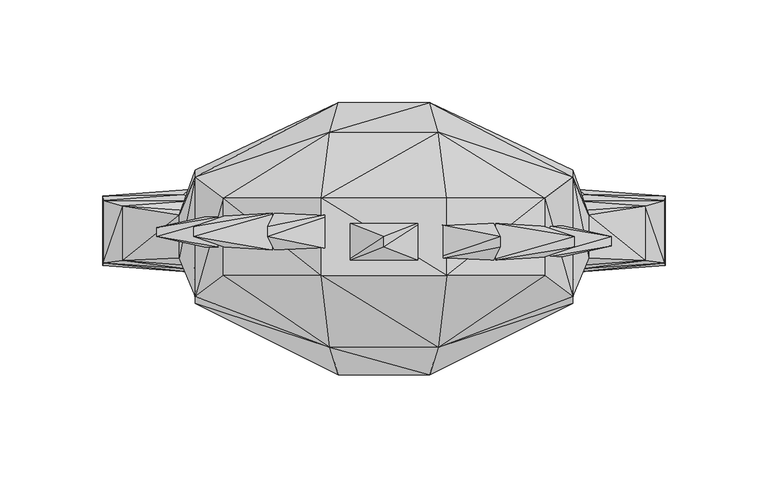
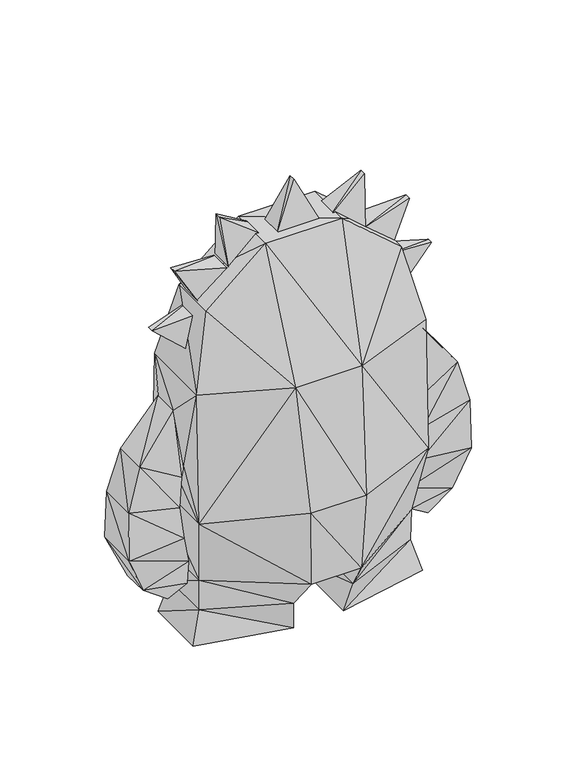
"""IFC4 building model written with IfcOpenShell, lengths in millimetres: geographic element geometry, Enscape AssetDefinition - Plushy 03 : Enscape AssetDefinition - Plushy 03."""

from ifc_helpers import new_model, si_unit, origin, place, context, project, spatial, faceted_brep, source, transform, mapped, element, save


def geographic_element_8ae85c0b(model_context):
    return source(origin(), model_context, "Body", "Brep", [
        faceted_brep([(91.9265822, 24.4659167, 0.0), (20.0573187, -39.6175124, 0.0), (20.0573187, 39.6175124, 0.0), (91.9265822, -24.4659167, 0.0), (84.704794, -20.0782437, 25.816232), (23.8822959, -46.1381339, 25.8158222), (84.7048014, 20.0782437, 25.816232), (23.8822959, 46.1381264, 25.8158147), (85.1329267, -20.741256, 51.6325012), (85.1329267, 20.741256, 51.6325012), (20.0573187, -64.2647818, 51.6315699), (20.0573187, 64.2647967, 51.6315624), (91.9265822, 32.5642116, 108.3170995), (91.9265822, -32.5642116, 108.3170995), (-22.3514959, -67.5532967, 114.4022718), (22.3514959, -67.5532967, 114.4022718), (-20.0573187, -64.2647818, 51.6315699), (-26.439596, -53.9494343, 214.153707), (26.439596, -53.9494343, 214.153707), (-91.9265822, -32.5642116, 108.3170995), (-85.1329267, -20.741256, 51.6325012), (-20.0573187, 64.2647967, 51.6315624), (-23.8822959, -46.1381339, 25.8158129), (-22.3483704, 65.4671639, 114.3259779), (-91.9265822, 32.5642116, 108.3170995), (-85.1329267, 20.741256, 51.6325012), (-23.8822959, 46.1381264, 25.8158073), (-84.7047791, -20.0782437, 25.8162282), (-20.0573187, -39.6175124, 0.0), (-20.0573187, 39.6175124, 0.0), (-84.704794, 20.0782456, 25.8162282), (-91.9265822, 24.4659167, 0.0), (-91.9265822, -24.4659167, 0.0), (-91.9265822, -29.1777272, 215.7937288), (-92.7249789, 12.4114128, 145.3188658), (-92.7249789, -12.4114081, 145.3188658), (-30.6421965, -18.8544281, 316.6989386), (-78.3054754, -18.9004317, 275.6634653), (30.6421965, -18.8544281, 316.6989386), (-30.6421928, 18.8544225, 316.6989386), (-78.3054754, 18.9004373, 275.6634653), (78.3054754, -18.9004317, 275.6634653), (91.9265822, -29.1777272, 215.7937288), (78.3054754, 18.9004373, 275.6634653), (30.6421928, 18.8544225, 316.6989386), (91.9265822, 29.1777328, 215.7937288), (99.9298692, -10.4684532, 194.6017444), (92.7249789, -12.4114081, 145.3188658), (92.7249789, 12.4114128, 145.3188658), (94.9723274, 17.3919983, 138.1860524), (94.9723274, -13.980451, 138.1860524), (99.9298692, 10.4684578, 194.6017444), (127.3010075, -11.5248375, 156.4494222), (97.5657329, 20.5363389, 113.9087602), (97.5657329, -15.610951, 113.9087602), (127.3010075, 14.9363838, 156.4494222), (136.8868202, 17.7069865, 121.6728538), (95.0691253, 22.8790678, 88.5747597), (137.2185946, 19.7368804, 81.8407908), (136.8868202, -12.7815958, 121.6728538), (95.0691253, -17.2649752, 88.5747597), (88.5771587, 12.4114156, 63.739121), (124.128066, 10.4684625, 50.1774885), (137.2185946, -14.1227804, 81.8407908), (124.128066, -10.4684485, 50.1774885), (104.3465734, 10.4684643, 36.0647775), (104.3465734, -10.4684466, 36.0647775), (88.5771587, -12.4114053, 63.739121), (89.9981037, 12.4114156, 45.6035361), (89.9981037, -12.4114053, 45.6035361), (22.3483704, 65.4671639, 114.3259779), (26.4552347, 51.119823, 214.535296), (-26.4552347, 51.119823, 214.535296), (-91.9265822, 29.1777328, 215.7937288), (-99.9298692, 10.4684578, 194.6017444), (-99.9298692, -10.4684532, 194.6017444), (-127.3010075, -11.5248375, 156.4494222), (-94.9723274, -13.980451, 138.1860524), (-127.3010075, 14.9363838, 156.4494222), (-136.8868202, -12.7815958, 121.6728538), (-97.5657329, -15.610951, 113.9087602), (-94.9723274, 17.3919983, 138.1860524), (-97.5657329, 20.5363389, 113.9087602), (-136.8868202, 17.7069865, 121.6728538), (-137.2185946, -14.1227804, 81.8407908), (-95.0691253, -17.2649752, 88.5747597), (-95.0691253, 22.8790678, 88.5747597), (-137.2185946, 19.7368804, 81.8407908), (-124.128066, -10.4684485, 50.1774885), (-88.5771587, -12.4114053, 63.739121), (-88.5771587, 12.4114156, 63.739121), (-124.128066, 10.4684625, 50.1774885), (-104.3465734, -10.4684466, 36.0647775), (-89.9981037, -12.4114053, 45.6035361), (-89.9981037, 12.4114156, 45.6035361), (-104.3465734, 10.4684643, 36.0647775)], [[[0, 1, 2]], [[1, 0, 3]], [[4, 1, 3]], [[1, 4, 5]], [[5, 2, 1]], [[6, 2, 7]], [[2, 6, 0]], [[2, 5, 7]], [[4, 0, 6]], [[0, 4, 3]], [[8, 5, 4]], [[4, 9, 8]], [[9, 4, 6]], [[10, 7, 5]], [[5, 8, 10]], [[7, 10, 11]], [[9, 7, 11]], [[7, 9, 6]], [[12, 8, 9]], [[11, 12, 9]], [[13, 10, 8]], [[8, 12, 13]], [[14, 10, 15]], [[10, 14, 16]], [[10, 13, 15]], [[16, 11, 10]], [[17, 15, 18]], [[15, 17, 14]], [[13, 18, 15]], [[19, 16, 14]], [[17, 19, 14]], [[16, 19, 20]], [[11, 16, 21]], [[20, 22, 16]], [[22, 21, 16]], [[23, 11, 21]], [[24, 21, 25]], [[21, 24, 23]], [[26, 25, 21]], [[21, 22, 26]], [[27, 28, 22]], [[28, 26, 22]], [[22, 20, 27]], [[29, 30, 26]], [[26, 28, 29]], [[25, 26, 30]], [[20, 24, 25]], [[30, 20, 25]], [[31, 27, 30]], [[30, 29, 31]], [[20, 30, 27]], [[28, 27, 32]], [[27, 31, 32]], [[31, 28, 32]], [[28, 31, 29]], [[24, 20, 19]], [[19, 17, 33]], [[34, 19, 35]], [[19, 34, 24]], [[33, 35, 19]], [[18, 36, 17]], [[17, 37, 33]], [[37, 17, 36]], [[38, 39, 36]], [[40, 36, 39]], [[36, 40, 37]], [[36, 18, 38]], [[18, 41, 38]], [[41, 18, 42]], [[18, 13, 42]], [[43, 38, 41]], [[38, 43, 44]], [[39, 38, 44]], [[42, 43, 41]], [[43, 42, 45]], [[46, 45, 42]], [[47, 42, 13]], [[42, 47, 46]], [[48, 13, 12]], [[13, 48, 47]], [[49, 47, 48]], [[47, 49, 50]], [[50, 46, 47]], [[45, 46, 51]], [[52, 51, 46]], [[46, 50, 52]], [[53, 50, 49]], [[50, 53, 54]], [[54, 52, 50]], [[48, 55, 49]], [[56, 49, 55]], [[49, 56, 53]], [[57, 54, 53]], [[58, 53, 56]], [[53, 58, 57]], [[52, 54, 59]], [[54, 57, 60]], [[60, 59, 54]], [[61, 60, 57]], [[62, 57, 58]], [[57, 62, 61]], [[56, 63, 58]], [[64, 58, 63]], [[58, 64, 62]], [[65, 61, 62]], [[66, 62, 64]], [[62, 66, 65]], [[60, 61, 67]], [[68, 67, 61]], [[61, 65, 68]], [[69, 65, 66]], [[65, 69, 68]], [[64, 69, 66]], [[63, 67, 64]], [[69, 64, 67]], [[67, 63, 60]], [[67, 68, 69]], [[59, 60, 63]], [[63, 56, 59]], [[55, 59, 56]], [[55, 48, 51]], [[51, 52, 55]], [[59, 55, 52]], [[12, 51, 48]], [[51, 12, 45]], [[12, 11, 70]], [[70, 45, 12]], [[71, 43, 45]], [[45, 70, 71]], [[11, 23, 70]], [[72, 70, 23]], [[70, 72, 71]], [[43, 71, 44]], [[39, 71, 72]], [[71, 39, 44]], [[40, 72, 73]], [[72, 40, 39]], [[23, 73, 72]], [[73, 23, 24]], [[33, 40, 73]], [[24, 74, 73]], [[75, 73, 74]], [[73, 75, 33]], [[40, 33, 37]], [[35, 33, 75]], [[74, 76, 75]], [[77, 75, 76]], [[75, 77, 35]], [[74, 24, 34]], [[34, 78, 74]], [[76, 74, 78]], [[78, 79, 76]], [[80, 76, 79]], [[76, 80, 77]], [[81, 35, 77]], [[82, 77, 80]], [[77, 82, 81]], [[35, 81, 34]], [[78, 34, 81]], [[81, 83, 78]], [[79, 78, 83]], [[83, 84, 79]], [[85, 79, 84]], [[79, 85, 80]], [[86, 80, 85]], [[80, 86, 82]], [[83, 81, 82]], [[87, 82, 86]], [[82, 87, 83]], [[84, 83, 87]], [[87, 88, 84]], [[89, 84, 88]], [[84, 89, 85]], [[90, 85, 89]], [[85, 90, 86]], [[91, 86, 90]], [[86, 91, 87]], [[88, 87, 91]], [[91, 92, 88]], [[93, 88, 92]], [[88, 93, 89]], [[94, 89, 93]], [[89, 94, 90]], [[95, 90, 94]], [[90, 95, 91]], [[92, 91, 95]], [[95, 93, 92]], [[93, 95, 94]]]),
        faceted_brep([(110.7708812, -4.5236237, 259.4098151), (70.737116, -11.3102943, 266.7473555), (79.7694176, -11.3102896, 233.0383956), (70.737116, 6.7866729, 266.7473555), (110.7708812, -6.7e-06, 259.4098151), (79.7694176, 6.7866785, 233.0383956)], [[[0, 1, 2]], [[3, 2, 1]], [[1, 4, 3]], [[4, 1, 0]], [[2, 3, 5]], [[5, 0, 2]], [[0, 5, 4]], [[3, 4, 5]]]),
        faceted_brep([(92.8667635, -4.9612909, 303.2206297), (48.8552637, -12.4045741, 295.7656682), (70.8085895, -12.4045694, 264.4130588), (48.85526, 7.4432758, 295.7656682), (92.8667635, -1.39e-05, 303.2206297), (70.8085895, 7.4432809, 264.4130588)], [[[0, 1, 2]], [[3, 2, 1]], [[1, 4, 3]], [[4, 1, 0]], [[2, 3, 5]], [[5, 0, 2]], [[0, 5, 4]], [[3, 4, 5]]]),
        faceted_brep([(56.6333085, -4.9612853, 336.4837468), (19.8959336, -12.4045769, 311.1272156), (53.0425757, -12.4045694, 291.9899821), (19.8959336, 7.443272, 311.1272156), (56.6333085, -8.3e-06, 336.4837468), (53.042572, 7.44328, 291.9899821)], [[[0, 1, 2]], [[3, 2, 1]], [[1, 4, 3]], [[4, 1, 0]], [[2, 3, 5]], [[5, 0, 2]], [[0, 5, 4]], [[3, 4, 5]]]),
        faceted_brep([(0.0, -5.1532956, 351.953119), (-19.8778361, -12.8846355, 310.0643456), (19.8778361, -12.8846308, 310.0643456), (-19.8778342, 7.7313269, 310.0643456), (0.0, -1.74e-05, 351.953119), (19.8778361, 7.7313315, 310.0643456)], [[[0, 1, 2]], [[3, 2, 1]], [[1, 4, 3]], [[4, 1, 0]], [[2, 3, 5]], [[5, 0, 2]], [[0, 5, 4]], [[3, 4, 5]]]),
        faceted_brep([(-56.6333085, 4.9612625, 336.4837468), (-19.8959336, 12.4045517, 311.1272156), (-53.0425757, 12.4045461, 291.9899821), (-19.8959336, -7.4432986, 311.1272156), (-56.6333085, -1.45e-05, 336.4837468), (-53.042572, -7.4433037, 291.9899821)], [[[0, 1, 2]], [[3, 2, 1]], [[1, 4, 3]], [[4, 1, 0]], [[2, 3, 5]], [[5, 0, 2]], [[0, 5, 4]], [[3, 4, 5]]]),
        faceted_brep([(-92.8667635, 4.9612736, 303.2206297), (-48.85526, 12.4045536, 295.7656682), (-70.8085895, 12.4045499, 264.4130588), (-48.8552637, -7.4432972, 295.7656682), (-92.8667635, -3.3e-06, 303.2206297), (-70.8085895, -7.4433, 264.4130588)], [[[0, 1, 2]], [[3, 2, 1]], [[1, 4, 3]], [[4, 1, 0]], [[2, 3, 5]], [[5, 0, 2]], [[0, 5, 4]], [[3, 4, 5]]]),
        faceted_brep([(-110.7708812, 4.5236112, 259.4098151), (-70.737116, 11.3102784, 266.7473555), (-79.7694176, 11.3102747, 233.0383956), (-70.737116, -6.7866892, 266.7473555), (-110.7708812, -5.8e-06, 259.4098151), (-79.7694176, -6.7866938, 233.0383956)], [[[0, 1, 2]], [[3, 2, 1]], [[1, 4, 3]], [[4, 1, 0]], [[2, 3, 5]], [[5, 0, 2]], [[0, 5, 4]], [[3, 4, 5]]]),
    ])


if __name__ == "__main__":
    model = new_model("IFC4")
    model_context = context("Model", 3, world=origin())
    ifc_project = project(units=[si_unit("LENGTHUNIT", "METRE", prefix="MILLI")], contexts=[model_context])
    site = spatial("IfcSite", under=ifc_project)
    building = spatial("IfcBuilding", under=site)
    placement = place(None, origin())
    geographic_element_shape = geographic_element_8ae85c0b(model_context)
    element("IfcGeographicElement", 1, ObjectType="Enscape AssetDefinition - Plushy 03 : Enscape AssetDefinition - Plushy 03", at=placement, inside=building, context=model_context, shape_type="MappedRepresentation", body=[
        mapped(geographic_element_shape, transform((0.0, 0.0, 0.0), x_axis=(1.0, 0.0, 0.0), y_axis=(0.0, 1.0, 0.0), z_axis=(0.0, 0.0, 1.0))),
    ])
    save(model, "model.ifc")
